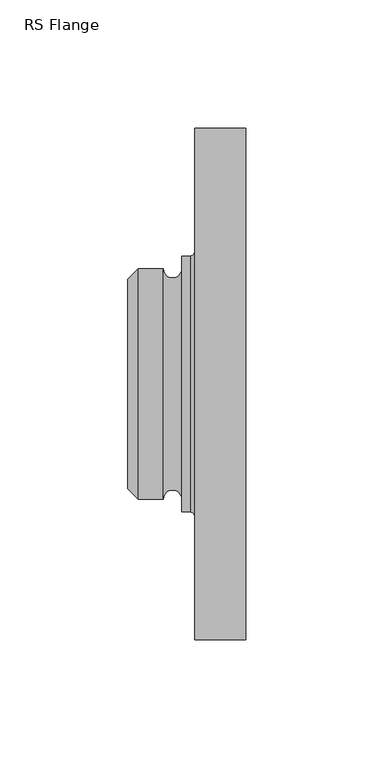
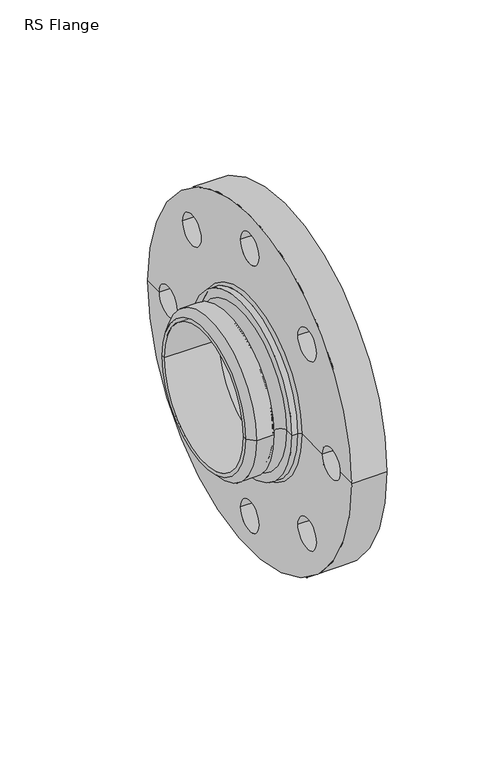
"""IFC4 building model written with IfcOpenShell, lengths in millimetres: pipe fitting geometry, RS Flange : Superpipe Flange Adapter - RS3 DN80 (PN16)."""

from ifc_helpers import new_model, si_unit, point, frame, origin, place, context, project, spatial, polyline, circle_curve, ellipse_curve, trimmed, source, transform, mapped, element, save
from ifc_brep_helpers import plane_surface, cylinder_surface, revolved_surface, advanced_brep


def rs_flange_a0c34e24(model_context):
    return source(origin(), model_context, "Body", "AdvancedBrep", [
        advanced_brep(
        [(0.0, -39.0, 0.0), (0.0, 39.0, 0.0), (0.0, 41.0, 0.0), (0.0, -41.0, 0.0), (31.0748159, -39.0, 0.0), (31.0748159, 39.0, 0.0), (46.0, -100.0, 0.0), (46.0, 100.0, 0.0), (46.0, 89.0, 0.0), (46.0, 71.0, 0.0), (46.0, 39.0, 0.0), (46.0, -39.0, 0.0), (46.0, -71.0, 0.0), (46.0, -89.0, 0.0), (46.0, 65.8198052, -56.3172798), (46.0, 47.8198052, -56.3172798), (46.0, 9.0, -80.0), (46.0, -9.0, -80.0), (46.0, -47.3172798, -56.3172798), (46.0, -65.3172798, -56.3172798), (46.0, -47.3172798, 56.8198052), (46.0, -65.3172798, 56.8198052), (46.0, 9.0, 80.0), (46.0, -9.0, 80.0), (46.0, 65.8198052, 56.8198052), (46.0, 47.8198052, 56.8198052), (26.0, -100.0, 0.0), (26.0, 100.0, 0.0), (26.0, -89.0, 0.0), (26.0, -71.0, 0.0), (26.0, -51.5, 0.0), (26.0, 51.5, 0.0), (26.0, 71.0, 0.0), (26.0, 89.0, 0.0), (26.0, 47.8198052, -56.3172798), (26.0, 65.8198052, -56.3172798), (26.0, -9.0, -80.0), (26.0, 9.0, -80.0), (26.0, -65.3172798, -56.3172798), (26.0, -47.3172798, -56.3172798), (26.0, -65.3172798, 56.8198052), (26.0, -47.3172798, 56.8198052), (26.0, -9.0, 80.0), (26.0, 9.0, 80.0), (26.0, 47.8198052, 56.8198052), (26.0, 65.8198052, 56.8198052), (24.5, -50.0, 0.0), (24.5, 50.0, 0.0), (21.0, -50.0, 0.0), (21.0, 50.0, 0.0), (21.0, -45.0, 0.0), (21.0, 45.0, 0.0), (13.8, -45.0, 0.0), (13.8, 45.0, 0.0), (4.0, -45.0, 0.0), (4.0, 45.0, 0.0)],
        [
            (0, 1, circle_curve(frame((0.0, 0.0, 0.0), z_axis=(1.0, 0.0, 0.0), x_axis=(0.0, 1.0, 0.0)), 39.0)),
            (1, 2),
            (2, 3, circle_curve(frame((0.0, 0.0, 0.0), z_axis=(-1.0, 0.0, 0.0), x_axis=(0.0, 1.0, 0.0)), 41.0)),
            (3, 0),
            (1, 0, circle_curve(frame((0.0, 0.0, 0.0), z_axis=(1.0, 0.0, 0.0), x_axis=(0.0, 1.0, 0.0)), 39.0)),
            (3, 2, circle_curve(frame((0.0, 0.0, 0.0), z_axis=(-1.0, 0.0, 0.0), x_axis=(0.0, 1.0, 0.0)), 41.0)),
            (0, 4),
            (4, 5, circle_curve(frame((31.0748159, 0.0, 0.0), z_axis=(1.0, 0.0, 0.0), x_axis=(0.0, 1.0, 0.0)), 39.0)),
            (5, 1),
            (5, 4, circle_curve(frame((31.0748159, 0.0, 0.0), z_axis=(1.0, 0.0, 0.0), x_axis=(0.0, 1.0, 0.0)), 39.0)),
            (6, 7, circle_curve(frame((46.0, 0.0, 0.0), z_axis=(1.0, 0.0, 0.0), x_axis=(0.0, 1.0, 0.0)), 100.0)),
            (7, 8),
            (8, 9, circle_curve(frame((46.0, 80.0, 0.0), z_axis=(-1.0, 0.0, 0.0), x_axis=(0.0, -1.0, 0.0)), 9.0)),
            (9, 10),
            (10, 11, circle_curve(frame((46.0, 0.0, 0.0), z_axis=(-1.0, 0.0, 0.0), x_axis=(0.0, 1.0, 0.0)), 39.0)),
            (11, 12),
            (12, 13, circle_curve(frame((46.0, -80.0, 0.0), z_axis=(-1.0, 0.0, 0.0), x_axis=(0.0, -1.0, 0.0)), 9.0)),
            (13, 6),
            (14, 15, circle_curve(frame((46.0, 56.8198052, -56.3172798), z_axis=(-1.0, 0.0, 0.0), x_axis=(0.0, -1.0, 0.0)), 9.0)),
            (15, 14, circle_curve(frame((46.0, 56.8198052, -56.3172798), z_axis=(-1.0, 0.0, 0.0), x_axis=(0.0, -1.0, 0.0)), 9.0)),
            (16, 17, circle_curve(frame((46.0, 0.0, -80.0), z_axis=(-1.0, 0.0, 0.0), x_axis=(0.0, -1.0, 0.0)), 9.0)),
            (17, 16, circle_curve(frame((46.0, 0.0, -80.0), z_axis=(-1.0, 0.0, 0.0), x_axis=(0.0, -1.0, 0.0)), 9.0)),
            (18, 19, circle_curve(frame((46.0, -56.3172798, -56.3172798), z_axis=(-1.0, 0.0, 0.0), x_axis=(0.0, -1.0, 0.0)), 9.0)),
            (19, 18, circle_curve(frame((46.0, -56.3172798, -56.3172798), z_axis=(-1.0, 0.0, 0.0), x_axis=(0.0, -1.0, 0.0)), 9.0)),
            (7, 6, circle_curve(frame((46.0, 0.0, 0.0), z_axis=(1.0, 0.0, 0.0), x_axis=(0.0, 1.0, 0.0)), 100.0)),
            (13, 12, circle_curve(frame((46.0, -80.0, 0.0), z_axis=(-1.0, 0.0, 0.0), x_axis=(0.0, -1.0, 0.0)), 9.0)),
            (11, 10, circle_curve(frame((46.0, 0.0, 0.0), z_axis=(-1.0, 0.0, 0.0), x_axis=(0.0, 1.0, 0.0)), 39.0)),
            (9, 8, circle_curve(frame((46.0, 80.0, 0.0), z_axis=(-1.0, 0.0, 0.0), x_axis=(0.0, -1.0, 0.0)), 9.0)),
            (20, 21, circle_curve(frame((46.0, -56.3172798, 56.8198052), z_axis=(-1.0, 0.0, 0.0), x_axis=(0.0, -1.0, 0.0)), 9.0)),
            (21, 20, circle_curve(frame((46.0, -56.3172798, 56.8198052), z_axis=(-1.0, 0.0, 0.0), x_axis=(0.0, -1.0, 0.0)), 9.0)),
            (22, 23, circle_curve(frame((46.0, 0.0, 80.0), z_axis=(-1.0, 0.0, 0.0), x_axis=(0.0, -1.0, 0.0)), 9.0)),
            (23, 22, circle_curve(frame((46.0, 0.0, 80.0), z_axis=(-1.0, 0.0, 0.0), x_axis=(0.0, -1.0, 0.0)), 9.0)),
            (24, 25, circle_curve(frame((46.0, 56.8198052, 56.8198052), z_axis=(-1.0, 0.0, 0.0), x_axis=(0.0, -1.0, 0.0)), 9.0)),
            (25, 24, circle_curve(frame((46.0, 56.8198052, 56.8198052), z_axis=(-1.0, 0.0, 0.0), x_axis=(0.0, -1.0, 0.0)), 9.0)),
            (6, 26),
            (26, 27, circle_curve(frame((26.0, 0.0, 0.0), z_axis=(1.0, 0.0, 0.0), x_axis=(0.0, 1.0, 0.0)), 100.0)),
            (27, 7),
            (27, 26, circle_curve(frame((26.0, 0.0, 0.0), z_axis=(1.0, 0.0, 0.0), x_axis=(0.0, 1.0, 0.0)), 100.0)),
            (26, 28),
            (28, 29, circle_curve(frame((26.0, -80.0, 0.0), z_axis=(1.0, 0.0, 0.0), x_axis=(0.0, -1.0, 0.0)), 9.0)),
            (29, 30),
            (30, 31, circle_curve(frame((26.0, 0.0, 0.0), z_axis=(1.0, 0.0, 0.0), x_axis=(0.0, 1.0, 0.0)), 51.5)),
            (31, 32),
            (32, 33, circle_curve(frame((26.0, 80.0, 0.0), z_axis=(1.0, 0.0, 0.0), x_axis=(0.0, -1.0, 0.0)), 9.0)),
            (33, 27),
            (34, 35, circle_curve(frame((26.0, 56.8198052, -56.3172798), z_axis=(1.0, 0.0, 0.0), x_axis=(0.0, -1.0, 0.0)), 9.0)),
            (35, 34, circle_curve(frame((26.0, 56.8198052, -56.3172798), z_axis=(1.0, 0.0, 0.0), x_axis=(0.0, -1.0, 0.0)), 9.0)),
            (36, 37, circle_curve(frame((26.0, 0.0, -80.0), z_axis=(1.0, 0.0, 0.0), x_axis=(0.0, -1.0, 0.0)), 9.0)),
            (37, 36, circle_curve(frame((26.0, 0.0, -80.0), z_axis=(1.0, 0.0, 0.0), x_axis=(0.0, -1.0, 0.0)), 9.0)),
            (38, 39, circle_curve(frame((26.0, -56.3172798, -56.3172798), z_axis=(1.0, 0.0, 0.0), x_axis=(0.0, -1.0, 0.0)), 9.0)),
            (39, 38, circle_curve(frame((26.0, -56.3172798, -56.3172798), z_axis=(1.0, 0.0, 0.0), x_axis=(0.0, -1.0, 0.0)), 9.0)),
            (33, 32, circle_curve(frame((26.0, 80.0, 0.0), z_axis=(1.0, 0.0, 0.0), x_axis=(0.0, -1.0, 0.0)), 9.0)),
            (31, 30, circle_curve(frame((26.0, 0.0, 0.0), z_axis=(1.0, 0.0, 0.0), x_axis=(0.0, 1.0, 0.0)), 51.5)),
            (29, 28, circle_curve(frame((26.0, -80.0, 0.0), z_axis=(1.0, 0.0, 0.0), x_axis=(0.0, -1.0, 0.0)), 9.0)),
            (40, 41, circle_curve(frame((26.0, -56.3172798, 56.8198052), z_axis=(1.0, 0.0, 0.0), x_axis=(0.0, -1.0, 0.0)), 9.0)),
            (41, 40, circle_curve(frame((26.0, -56.3172798, 56.8198052), z_axis=(1.0, 0.0, 0.0), x_axis=(0.0, -1.0, 0.0)), 9.0)),
            (42, 43, circle_curve(frame((26.0, 0.0, 80.0), z_axis=(1.0, 0.0, 0.0), x_axis=(0.0, -1.0, 0.0)), 9.0)),
            (43, 42, circle_curve(frame((26.0, 0.0, 80.0), z_axis=(1.0, 0.0, 0.0), x_axis=(0.0, -1.0, 0.0)), 9.0)),
            (44, 45, circle_curve(frame((26.0, 56.8198052, 56.8198052), z_axis=(1.0, 0.0, 0.0), x_axis=(0.0, -1.0, 0.0)), 9.0)),
            (45, 44, circle_curve(frame((26.0, 56.8198052, 56.8198052), z_axis=(1.0, 0.0, 0.0), x_axis=(0.0, -1.0, 0.0)), 9.0)),
            (30, 46, circle_curve(frame((24.5, -51.5, 0.0), z_axis=(0.0, 0.0, 1.0), x_axis=(1.0, 0.0, 0.0)), 1.5)),
            (46, 47, circle_curve(frame((24.5, 0.0, 0.0), z_axis=(1.0, 0.0, 0.0), x_axis=(0.0, 1.0, 0.0)), 50.0)),
            (47, 31, circle_curve(frame((24.5, 51.5, 0.0), z_axis=(0.0, 0.0, 1.0), x_axis=(1.0, 0.0, 0.0)), 1.5)),
            (47, 46, circle_curve(frame((24.5, 0.0, 0.0), z_axis=(1.0, 0.0, 0.0), x_axis=(0.0, 1.0, 0.0)), 50.0)),
            (46, 48),
            (48, 49, circle_curve(frame((21.0, 0.0, 0.0), z_axis=(1.0, 0.0, 0.0), x_axis=(0.0, 1.0, 0.0)), 50.0)),
            (49, 47),
            (49, 48, circle_curve(frame((21.0, 0.0, 0.0), z_axis=(1.0, 0.0, 0.0), x_axis=(0.0, 1.0, 0.0)), 50.0)),
            (48, 50),
            (50, 51, circle_curve(frame((21.0, 0.0, 0.0), z_axis=(1.0, 0.0, 0.0), x_axis=(0.0, 1.0, 0.0)), 45.0)),
            (51, 49),
            (51, 50, circle_curve(frame((21.0, 0.0, 0.0), z_axis=(1.0, 0.0, 0.0), x_axis=(0.0, 1.0, 0.0)), 45.0)),
            (50, 52, circle_curve(frame((17.4, -45.0, 0.0), z_axis=(0.0, 0.0, 1.0), x_axis=(1.0, 0.0, 0.0)), 3.6)),
            (52, 53, circle_curve(frame((13.8, 0.0, 0.0), z_axis=(1.0, 0.0, 0.0), x_axis=(0.0, 1.0, 0.0)), 45.0)),
            (53, 51, circle_curve(frame((17.4, 45.0, 0.0), z_axis=(0.0, 0.0, 1.0), x_axis=(1.0, 0.0, 0.0)), 3.6)),
            (53, 52, circle_curve(frame((13.8, 0.0, 0.0), z_axis=(1.0, 0.0, 0.0), x_axis=(0.0, 1.0, 0.0)), 45.0)),
            (52, 54),
            (54, 55, circle_curve(frame((4.0, 0.0, 0.0), z_axis=(1.0, 0.0, 0.0), x_axis=(0.0, 1.0, 0.0)), 45.0)),
            (55, 53),
            (55, 54, circle_curve(frame((4.0, 0.0, 0.0), z_axis=(1.0, 0.0, 0.0), x_axis=(0.0, 1.0, 0.0)), 45.0)),
            (2, 55),
            (54, 3),
            (28, 13),
            (12, 29),
            (20, 41),
            (40, 21),
            (42, 23),
            (22, 43),
            (24, 45),
            (44, 25),
            (32, 9),
            (8, 33),
            (14, 35),
            (34, 15),
            (36, 17),
            (16, 37),
            (18, 39),
            (38, 19),
            (4, 11),
            (10, 5),
        ],
        [
            plane_surface(frame((0.0, 0.0, 0.0), z_axis=(-1.0, 0.0, 0.0), x_axis=(0.0, 1.0, 0.0))),
            revolved_surface(polyline([(0.0, 39.0, 0.0), (31.074815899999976, 39.0, 0.0)]), (2000.0, 0.0, 0.0), (-1.0, 0.0, 0.0)),
            plane_surface(frame((46.0, 0.0, 0.0), z_axis=(1.0, 0.0, 0.0), x_axis=(0.0, 1.0, 0.0))),
            cylinder_surface(frame((2000.0, 0.0, 0.0), z_axis=(-1.0, 0.0, 0.0), x_axis=(0.0, 1.0, 0.0)), 100.0),
            plane_surface(frame((26.0, 0.0, 0.0), z_axis=(-1.0, 0.0, 0.0), x_axis=(0.0, 1.0, 0.0))),
            revolved_surface(trimmed(ellipse_curve(frame((24.5, 51.5, 0.0), z_axis=(0.0, 0.0, -1.0), x_axis=(1.0, 0.0, 0.0)), 1.5, 1.5), [point((26.0, 51.5, 0.0))], [point((24.5, 50.0, 0.0))], True, "CARTESIAN"), (2000.0, 0.0, 0.0), (-1.0, 0.0, 0.0)),
            cylinder_surface(frame((2000.0, 0.0, 0.0), z_axis=(-1.0, 0.0, 0.0), x_axis=(0.0, 1.0, 0.0)), 50.0),
            plane_surface(frame((21.0, 0.0, 0.0), z_axis=(-1.0, 0.0, 0.0), x_axis=(0.0, 1.0, 0.0))),
            revolved_surface(trimmed(ellipse_curve(frame((17.4, 45.0, 0.0), z_axis=(0.0, 0.0, -1.0), x_axis=(1.0, 0.0, 0.0)), 3.6, 3.6), [point((21.0, 45.0, 0.0))], [point((13.8, 45.0, 0.0))], True, "CARTESIAN"), (2000.0, 0.0, 0.0), (-1.0, 0.0, 0.0)),
            cylinder_surface(frame((2000.0, 0.0, 0.0), z_axis=(-1.0, 0.0, 0.0), x_axis=(0.0, 1.0, 0.0)), 45.0),
            revolved_surface(polyline([(4.0, 45.0, 0.0), (0.0, 41.0, 0.0)]), (2000.0, 0.0, 0.0), (-1.0, 0.0, 0.0)),
            revolved_surface(polyline([(26.0, -89.0, 0.0), (46.0, -89.0, 0.0)]), (46.0, -80.0, 0.0), (-1.0, 0.0, 0.0)),
            revolved_surface(polyline([(26.0, -65.3172798, 56.8198052), (46.0, -65.3172798, 56.8198052)]), (145.0, -56.3172798, 56.8198052), (-1.0, 0.0, 0.0)),
            revolved_surface(polyline([(26.0, -9.0, 80.0), (46.0, -9.0, 80.0)]), (46.0, 0.0, 80.0), (-1.0, 0.0, 0.0)),
            revolved_surface(polyline([(26.0, 47.8198052, 56.8198052), (46.0, 47.8198052, 56.8198052)]), (145.0, 56.8198052, 56.8198052), (-1.0, 0.0, 0.0)),
            revolved_surface(polyline([(26.0, 71.0, 0.0), (46.0, 71.0, 0.0)]), (46.0, 80.0, 0.0), (-1.0, 0.0, 0.0)),
            revolved_surface(polyline([(26.0, 47.8198052, -56.3172798), (46.0, 47.8198052, -56.3172798)]), (145.0, 56.8198052, -56.3172798), (-1.0, 0.0, 0.0)),
            revolved_surface(polyline([(26.0, -9.0, -80.0), (46.0, -9.0, -80.0)]), (46.0, 0.0, -80.0), (-1.0, 0.0, 0.0)),
            revolved_surface(polyline([(26.0, -65.3172798, -56.3172798), (46.0, -65.3172798, -56.3172798)]), (145.0, -56.3172798, -56.3172798), (-1.0, 0.0, 0.0)),
            revolved_surface(polyline([(31.074815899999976, 39.0, 0.0), (46.0, 39.0, 0.0)]), (2000.0, 0.0, 0.0), (-1.0, 0.0, 0.0)),
        ],
        [
            (0, [[1, 2, 3, 4]]),
            (0, [[-2, 5, -4, 6]]),
            (1, [[-1, 7, 8, 9]]),
            (1, [[-5, -9, 10, -7]]),
            (2, [[11, 12, 13, 14, 15, 16, 17, 18], [19, 20], [21, 22], [23, 24]]),
            (2, [[25, -18, 26, -16, 27, -14, 28, -12], [29, 30], [31, 32], [33, 34]]),
            (3, [[-11, 35, 36, 37]]),
            (3, [[-25, -37, 38, -35]]),
            (4, [[-36, 39, 40, 41, 42, 43, 44, 45], [46, 47], [48, 49], [50, 51]]),
            (4, [[-38, -45, 52, -43, 53, -41, 54, -39], [55, 56], [57, 58], [59, 60]]),
            (5, [[-42, 61, 62, 63]]),
            (5, [[-53, -63, 64, -61]]),
            (6, [[-62, 65, 66, 67]]),
            (6, [[-64, -67, 68, -65]]),
            (7, [[-66, 69, 70, 71]]),
            (7, [[-68, -71, 72, -69]]),
            (8, [[-70, 73, 74, 75]]),
            (8, [[-72, -75, 76, -73]]),
            (9, [[-74, 77, 78, 79]]),
            (9, [[-76, -79, 80, -77]]),
            (10, [[-3, 81, -78, 82]]),
            (10, [[-6, -82, -80, -81]]),
            (11, [[83, -17, 84, -40]]),
            (11, [[-83, -54, -84, -26]]),
            (12, [[85, -55, 86, -29]]),
            (12, [[-85, -30, -86, -56]]),
            (13, [[87, -31, 88, -57]]),
            (13, [[-87, -58, -88, -32]]),
            (14, [[89, -59, 90, -33]]),
            (14, [[-89, -34, -90, -60]]),
            (15, [[91, -13, 92, -44]]),
            (15, [[-91, -52, -92, -28]]),
            (16, [[93, -46, 94, -19]]),
            (16, [[-93, -20, -94, -47]]),
            (17, [[95, -21, 96, -48]]),
            (17, [[-95, -49, -96, -22]]),
            (18, [[97, -50, 98, -23]]),
            (18, [[-97, -24, -98, -51]]),
            (19, [[-8, 99, -15, 100]]),
            (19, [[-10, -100, -27, -99]]),
        ],
    ),
    ])


if __name__ == "__main__":
    model = new_model("IFC4")
    model_context = context("Model", 3, world=origin())
    ifc_project = project(units=[si_unit("LENGTHUNIT", "METRE", prefix="MILLI")], contexts=[model_context])
    site = spatial("IfcSite", under=ifc_project)
    building = spatial("IfcBuilding", under=site)
    placement = place(None, origin())
    rs_flange_shape = rs_flange_a0c34e24(model_context)
    element("IfcPipeFitting", 1, ObjectType="RS Flange : Superpipe Flange Adapter - RS3 DN80 (PN16)", at=placement, inside=building, context=model_context, shape_type="MappedRepresentation", body=[
        mapped(rs_flange_shape, transform((0.0, 0.0, 0.0), x_axis=(1.0, 0.0, 0.0), y_axis=(0.0, 1.0, 0.0), z_axis=(0.0, 0.0, 1.0))),
    ])
    save(model, "model.ifc")
